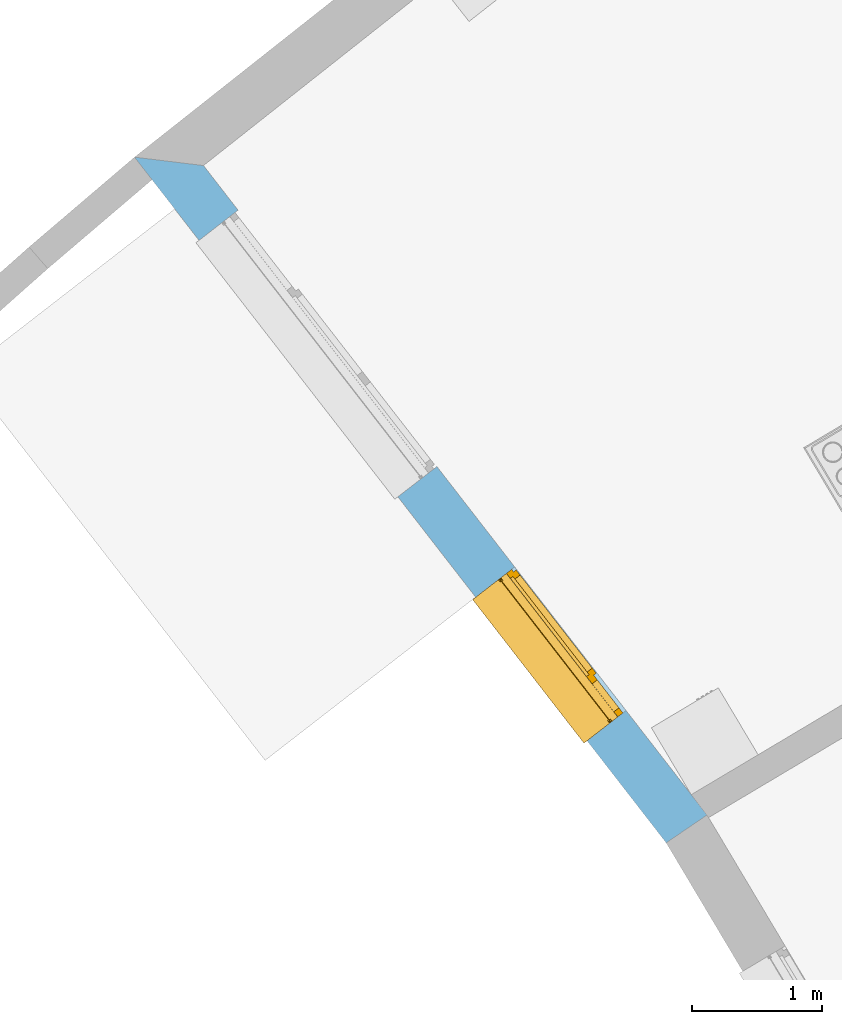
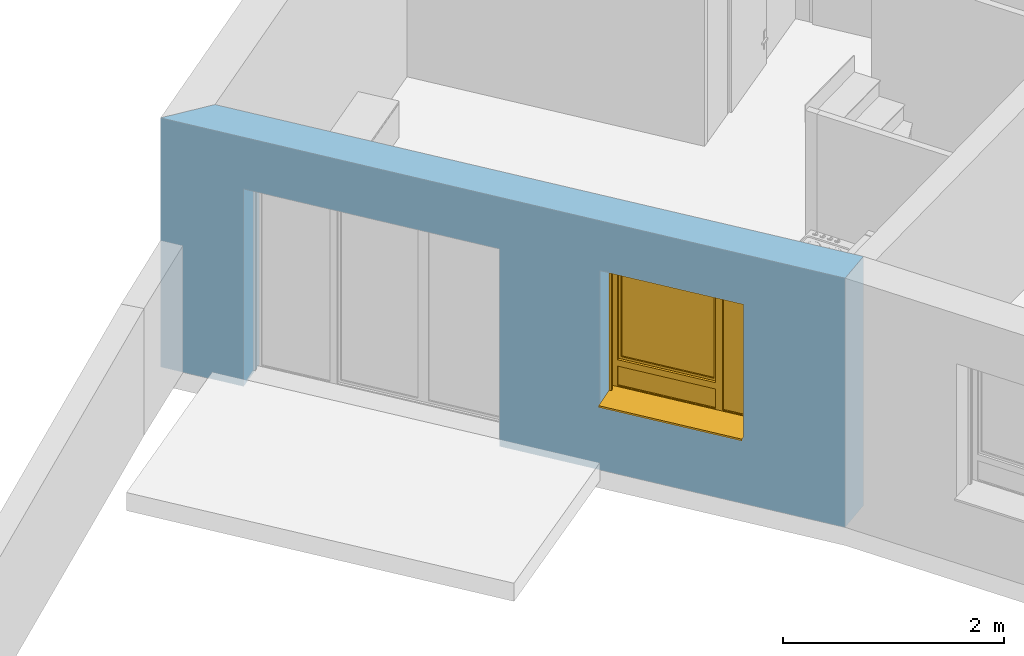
# One storey, part 42 of 195: 1 window, 2 openings, plus 1 element that does not belong to this part.
"""IFC2X3 building model written with IfcOpenShell, lengths in metres."""

import ifcopenshell
import ifcopenshell.guid

model = None  # the IFC model being written
_history = None  # IfcOwnerHistory: only IFC2X3 demands one
_inside = {}  # id of a spatial element -> (the spatial element, [elements in it])
_under = {}  # id of a project, library or spatial element -> (it, [spatial elements below it])
_declared = {}  # id of a project -> (the project, [libraries it declares])
_typed = {}  # id of a type object -> (the type object, [elements of that type])
_made_of = {}  # id of a material, layer set ... -> (it, [elements and type objects made of it])


def new_model(schema):
    """Start an empty IFC model of exactly this schema.

    Asked for "IFC4X3", IfcOpenShell would pick the latest addendum, in which some entities
    have other attributes; the version numbers below select the first issue.
    IFC2X3 requires an IfcOwnerHistory on every rooted entity: one is made here for all.
    """
    global model, _history
    if schema == "IFC4X3":
        model = ifcopenshell.file(schema_version=(4, 3, 0, 0))
    else:
        model = ifcopenshell.file(schema=schema)
    _inside.clear()
    _under.clear()
    _declared.clear()
    _typed.clear()
    _made_of.clear()
    _history = None
    if model.schema == "IFC2X3":
        org = make("IfcOrganization", Name="unknown")
        user = make(
            "IfcPersonAndOrganization",
            ThePerson=make("IfcPerson", FamilyName="unknown"),
            TheOrganization=org,
        )
        app = make(
            "IfcApplication",
            ApplicationDeveloper=org,
            Version="unknown",
            ApplicationFullName="unknown",
            ApplicationIdentifier="unknown",
        )
        _history = make(
            "IfcOwnerHistory",
            OwningUser=user,
            OwningApplication=app,
            ChangeAction="ADDED",
            CreationDate=0,
        )
    return model


def make(cls, **values):
    """One entity of the class cls with the attributes given. An attribute that is None is left unset."""
    return model.create_entity(
        cls, **{name: value for name, value in values.items() if value is not None}
    )


def entity(cls, *values):
    """Any entity or typed value of the class cls, its attributes in the order of the schema. None: left unset."""
    e = model.create_entity(cls)
    for i, value in enumerate(values):
        if value is not None:
            e[i] = value
    return e


def rooted(cls, **values):
    """An entity with a GlobalId (a new one), such as an element, a storey or a relation."""
    return make(cls, GlobalId=ifcopenshell.guid.new(), OwnerHistory=_history, **values)


def si_unit(unit_type, name, prefix=None):
    """IfcSIUnit, for example si_unit("LENGTHUNIT", "METRE", prefix="MILLI")."""
    return make("IfcSIUnit", UnitType=unit_type, Prefix=prefix, Name=name)


def converted_unit(unit_type, name, factor, base, dimensions=None, offset=None):
    """IfcConversionBasedUnit, such as the inch: factor (a typed value) times the base unit."""
    return make(
        "IfcConversionBasedUnit"
        if offset is None
        else "IfcConversionBasedUnitWithOffset",
        ConversionOffset=offset,
        Dimensions=None
        if dimensions is None
        else entity("IfcDimensionalExponents", *dimensions),
        UnitType=unit_type,
        Name=name,
        ConversionFactor=make(
            "IfcMeasureWithUnit", ValueComponent=factor, UnitComponent=base
        ),
    )


def derived_unit(unit_type, elements):
    """IfcDerivedUnit: a product of units, each with its exponent."""
    return make(
        "IfcDerivedUnit",
        Elements=[
            make("IfcDerivedUnitElement", Unit=unit, Exponent=power)
            for unit, power in elements
        ],
        UnitType=unit_type,
    )


def money_unit(currency):
    """IfcMonetaryUnit."""
    return make("IfcMonetaryUnit", Currency=currency)


def assignment(units):
    """IfcUnitAssignment: the units of a project."""
    return None if units is None else make("IfcUnitAssignment", Units=units)


def point(xyz):
    """IfcCartesianPoint."""
    return None if xyz is None else make("IfcCartesianPoint", Coordinates=xyz)


def direction(xyz):
    """IfcDirection."""
    return None if xyz is None else make("IfcDirection", DirectionRatios=xyz)


def frame(location, z_axis=None, x_axis=None):
    """IfcAxis2Placement3D, a coordinate frame: its origin and axes. An axis left out is left unset."""
    return make(
        "IfcAxis2Placement3D",
        Location=point(location),
        Axis=direction(z_axis),
        RefDirection=direction(x_axis),
    )


def origin_with_axes():
    """The frame at (0, 0, 0) with the z axis (0, 0, 1) and the x axis (1, 0, 0) written out."""
    return frame((0.0, 0.0, 0.0), z_axis=(0.0, 0.0, 1.0), x_axis=(1.0, 0.0, 0.0))


def place(relative_to, where):
    """IfcLocalPlacement: puts the frame where relative to a parent placement (None: the world)."""
    return make(
        "IfcLocalPlacement", PlacementRelTo=relative_to, RelativePlacement=where
    )


def context(
    kind, dimensions, precision=None, world=None, true_north=None, identifier=None
):
    """IfcGeometricRepresentationContext, for example the 3D "Model" context."""
    return make(
        "IfcGeometricRepresentationContext",
        ContextIdentifier=identifier,
        ContextType=kind,
        CoordinateSpaceDimension=dimensions,
        Precision=precision,
        WorldCoordinateSystem=world,
        TrueNorth=true_north,
    )


def subcontext(parent, identifier, kind, view, scale=None):
    """IfcGeometricRepresentationSubContext, for example "Body" below "Model"."""
    return make(
        "IfcGeometricRepresentationSubContext",
        ContextIdentifier=identifier,
        ContextType=kind,
        ParentContext=parent,
        TargetScale=scale,
        TargetView=view,
    )


def project(units=None, contexts=None):
    """IfcProject with its units and contexts."""
    return rooted(
        "IfcProject",
        Name="project",
        RepresentationContexts=contexts,
        UnitsInContext=assignment(units),
    )


def spatial(cls, under=None, at=None, **own):
    """A site, building, storey or space (cls), placed at a placement, below another one or the project."""
    s = rooted(cls, ObjectPlacement=at, **own)
    if under is not None:
        _under.setdefault(under.id(), (under, []))[1].append(s)
    return s


def polyline(points):
    """IfcPolyline through the points."""
    return make("IfcPolyline", Points=[point(p) for p in points])


def outline(outer, holes=None, kind="AREA"):
    """IfcArbitraryClosedProfileDef: a profile drawn as a closed curve; with holes, ...WithVoids."""
    if holes is None:
        return make("IfcArbitraryClosedProfileDef", ProfileType=kind, OuterCurve=outer)
    return make(
        "IfcArbitraryProfileDefWithVoids",
        ProfileType=kind,
        OuterCurve=outer,
        InnerCurves=holes,
    )


def extrude(swept, where, along, depth):
    """IfcExtrudedAreaSolid: the profile swept, set in the frame where, extruded along a direction by depth."""
    return make(
        "IfcExtrudedAreaSolid",
        SweptArea=swept,
        Position=where,
        ExtrudedDirection=direction(along),
        Depth=depth,
    )


def faces_of(points, faces, orient=None, outer=None):
    """IfcFace entities. A face is a list of loops; a loop is a list of indices into points, from 0.

    orient and outer hold one flag for each loop. By default every Orientation is true, the
    first loop of a face is its IfcFaceOuterBound and the others are IfcFaceBound.
    """
    made = []
    for i, loops in enumerate(faces):
        bounds = []
        for j, loop in enumerate(loops):
            is_outer = j == 0 if outer is None else outer[i][j]
            bounds.append(
                make(
                    "IfcFaceOuterBound" if is_outer else "IfcFaceBound",
                    Bound=make("IfcPolyLoop", Polygon=[points[k] for k in loop]),
                    Orientation=True if orient is None else orient[i][j],
                )
            )
        made.append(make("IfcFace", Bounds=bounds))
    return made


def open_shell(faces, orient=None, outer=None):
    """The faces of one IfcOpenShell. surface_model builds it on its shared points."""
    return ("IfcOpenShell", faces, orient, outer)


def faceted_brep(points, faces, orient=None, outer=None, voids=None):
    """IfcFacetedBrep: a solid bounded by flat faces; with voids (closed shells), ...WithVoids."""
    shared = [point(p) for p in points]
    hull = make("IfcClosedShell", CfsFaces=faces_of(shared, faces, orient, outer))
    if voids is None:
        return make("IfcFacetedBrep", Outer=hull)
    return make(
        "IfcFacetedBrepWithVoids",
        Outer=hull,
        Voids=[
            make(cls, CfsFaces=faces_of(shared, fs, o, b)) for cls, fs, o, b in voids
        ],
    )


def surface_model(cls, points, shells):
    """IfcFaceBasedSurfaceModel or IfcShellBasedSurfaceModel (cls): surfaces that need not close."""
    shared = [point(p) for p in points]
    made = [make(c, CfsFaces=faces_of(shared, fs, o, b)) for c, fs, o, b in shells]
    if cls == "IfcFaceBasedSurfaceModel":
        return make(cls, FbsmFaces=made)
    return make(cls, SbsmBoundary=made)


def shape(context_of_items, identifier, shape_type, items):
    """IfcShapeRepresentation: the items that make up one representation, for example the "Body"."""
    return make(
        "IfcShapeRepresentation",
        ContextOfItems=context_of_items,
        RepresentationIdentifier=identifier,
        RepresentationType=shape_type,
        Items=items,
    )


def source(mapping_origin, context_of_items, identifier, shape_type, items):
    """IfcRepresentationMap: a shape defined once, which mapped items show again and again."""
    return make(
        "IfcRepresentationMap",
        MappingOrigin=mapping_origin,
        MappedRepresentation=shape(context_of_items, identifier, shape_type, items),
    )


def transform(
    local_origin,
    x_axis=None,
    y_axis=None,
    z_axis=None,
    scale=None,
    scale2=None,
    scale3=None,
    uniform=True,
):
    """IfcCartesianTransformationOperator3D, or its non-uniform kind. x_axis, y_axis, z_axis: its Axis1, 2, 3."""
    if uniform:
        return make(
            "IfcCartesianTransformationOperator3D",
            Axis1=direction(x_axis),
            Axis2=direction(y_axis),
            LocalOrigin=point(local_origin),
            Scale=scale,
            Axis3=direction(z_axis),
        )
    return make(
        "IfcCartesianTransformationOperator3DnonUniform",
        Axis1=direction(x_axis),
        Axis2=direction(y_axis),
        LocalOrigin=point(local_origin),
        Scale=scale,
        Axis3=direction(z_axis),
        Scale2=scale2,
        Scale3=scale3,
    )


def mapped(mapping_source, mapping_target):
    """IfcMappedItem: shows the shape of a source again, moved by a transform."""
    return make(
        "IfcMappedItem", MappingSource=mapping_source, MappingTarget=mapping_target
    )


def material(Name=None, Category=None):
    """IfcMaterial."""
    return make("IfcMaterial", Name=Name, Category=Category)


def layer(
    of_material, thickness, ventilated=None, Name=None, Category=None, Priority=None
):
    """IfcMaterialLayer: one layer of a wall or slab, of a material (None: an air gap)."""
    return make(
        "IfcMaterialLayer",
        Material=of_material,
        LayerThickness=thickness,
        IsVentilated=ventilated,
        Name=Name,
        Category=Category,
        Priority=Priority,
    )


def layer_set(layers, Name=None):
    """IfcMaterialLayerSet."""
    return make("IfcMaterialLayerSet", MaterialLayers=layers, LayerSetName=Name)


def layer_usage(for_layer_set, set_direction, sense, offset, extent=None):
    """IfcMaterialLayerSetUsage: how a layer set lies in its element."""
    return make(
        "IfcMaterialLayerSetUsage",
        ForLayerSet=for_layer_set,
        LayerSetDirection=set_direction,
        DirectionSense=sense,
        OffsetFromReferenceLine=offset,
        ReferenceExtent=extent,
    )


def made_of(thing, what):
    """Note that an element or type object is made of a material, layer set ...; save() writes the relation."""
    if what is not None:
        _made_of.setdefault(what.id(), (what, []))[1].append(thing)
    return thing


def type_object(cls, material=None, **own):
    """A type object (cls), such as IfcWallType, which elements share."""
    return made_of(rooted(cls, **own), material)


def element(
    cls,
    number,
    at=None,
    inside=None,
    cuts=None,
    type_object=None,
    material=None,
    context=None,
    identifier="Body",
    shape_type=None,
    held_by="IfcProductDefinitionShape",
    body=None,
    shapes=None,
    **own,
):
    """One element of the class cls, such as IfcWall. Its Tag is "e" and its number.

    at: its placement. inside: the storey or other place that contains it. cuts: it is an
    opening in that element (IfcRelVoidsElement). A single representation is given by context,
    identifier, shape_type and body (its items); several are given by shapes. held_by: the class
    of the entity that holds the representations. save() writes the other relations.
    """
    e = rooted(cls, Tag="e%d" % number, ObjectPlacement=at, **own)
    if body is not None:
        shapes = [shape(context, identifier, shape_type, body)]
    if shapes is not None:
        e.Representation = make(held_by, Representations=shapes)
    if inside is not None:
        _inside.setdefault(inside.id(), (inside, []))[1].append(e)
    if cuts is not None:
        rooted(
            "IfcRelVoidsElement", RelatingBuildingElement=cuts, RelatedOpeningElement=e
        )
    if type_object is not None:
        _typed.setdefault(type_object.id(), (type_object, []))[1].append(e)
    return made_of(e, material)


def fill(opening, filler):
    """IfcRelFillsElement: the door or window that sits in an opening."""
    return rooted(
        "IfcRelFillsElement",
        RelatingOpeningElement=opening,
        RelatedBuildingElement=filler,
    )


def aggregate(whole, parts):
    """IfcRelAggregates: a whole, such as a stair, and the parts it consists of."""
    return rooted("IfcRelAggregates", RelatingObject=whole, RelatedObjects=parts)


def save(model, path):
    """Write the relations noted so far, then the file.

    IfcRelAggregates (storeys below a building ...), IfcRelContainedInSpatialStructure (elements
    in a storey), IfcRelDefinesByType, IfcRelAssociatesMaterial and IfcRelDeclares: one each for
    every whole, place, type object, material and project.
    """
    for whole, parts in _under.values():
        aggregate(whole, parts)
    for where, things in _inside.values():
        rooted(
            "IfcRelContainedInSpatialStructure",
            RelatedElements=things,
            RelatingStructure=where,
        )
    for kind, things in _typed.values():
        rooted("IfcRelDefinesByType", RelatedObjects=things, RelatingType=kind)
    for what, things in _made_of.values():
        rooted("IfcRelAssociatesMaterial", RelatedObjects=things, RelatingMaterial=what)
    for by, libraries in _declared.values():
        rooted("IfcRelDeclares", RelatingContext=by, RelatedDefinitions=libraries)
    model.write(path)


model = new_model("IFC2X3")

# Units and contexts
model_context = context("Model", 3, precision=1e-05, world=origin_with_axes(), true_north=direction((0.0, 1.0)))
body_context = subcontext(model_context, "Body", "Model", "MODEL_VIEW")
ifc_project = project(units=[si_unit("LENGTHUNIT", "METRE"), si_unit("AREAUNIT", "SQUARE_METRE"), si_unit("VOLUMEUNIT", "CUBIC_METRE"), converted_unit("PLANEANGLEUNIT", "DEGREE", entity("IfcPlaneAngleMeasure", 0.0174532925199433), si_unit("PLANEANGLEUNIT", "RADIAN"), dimensions=[0, 0, 0, 0, 0, 0, 0]), money_unit("CHF"), converted_unit("TIMEUNIT", "Year", entity("IfcTimeMeasure", 31557600.0), si_unit("TIMEUNIT", "SECOND"), dimensions=[0, 0, 1, 0, 0, 0, 0]), si_unit("MASSUNIT", "GRAM", prefix="KILO"), si_unit("THERMODYNAMICTEMPERATUREUNIT", "DEGREE_CELSIUS"), si_unit("LUMINOUSINTENSITYUNIT", "LUMEN"), si_unit("ENERGYUNIT", "JOULE", prefix="MEGA"), derived_unit("THERMALCONDUCTANCEUNIT", [(si_unit("POWERUNIT", "WATT"), 1), (si_unit("LENGTHUNIT", "METRE"), -1), (si_unit("THERMODYNAMICTEMPERATUREUNIT", "KELVIN"), -1)]), derived_unit("SPECIFICHEATCAPACITYUNIT", [(si_unit("ENERGYUNIT", "JOULE"), 1), (si_unit("MASSUNIT", "GRAM", prefix="KILO"), -1), (si_unit("THERMODYNAMICTEMPERATUREUNIT", "KELVIN"), -1)]), derived_unit("MASSDENSITYUNIT", [(si_unit("MASSUNIT", "GRAM", prefix="KILO"), 1), (si_unit("VOLUMEUNIT", "CUBIC_METRE"), -1)])], contexts=[model_context])

# Site, building, storey
site_placement = place(None, origin_with_axes())
site = spatial("IfcSite", under=ifc_project, at=site_placement, Name="Site", CompositionType="ELEMENT")
building_placement = place(site_placement, origin_with_axes())
building = spatial("IfcBuilding", under=site, at=building_placement, Name="Bâtiment", CompositionType="ELEMENT")
storey_placement = place(building_placement, origin_with_axes())
storey = spatial("IfcBuildingStorey", under=building, at=storey_placement, Name="rdc", CompositionType="ELEMENT", Elevation=0.0)

# Wall, openings, window
ifc_material_1 = material(Name="Parpaing 312445824")
ifc_layer_1 = layer(ifc_material_1, 0.22, ventilated="UNKNOWN")
ifc_material_2 = material(Name="Isolant styromousse 301821074")
ifc_layer_2 = layer(ifc_material_2, 0.16, ventilated="UNKNOWN")
ifc_layer_set = layer_set([ifc_layer_1, ifc_layer_2], Name="isol int 22+16 0836643197")
ifc_layer_usage = layer_usage(ifc_layer_set, "AXIS2", "NEGATIVE", 0.0)
wall_type = type_object("IfcWallType", Name="isol int 22+16 0836643197 380", PredefinedType="NOTDEFINED")
wall_placement = place(storey_placement, frame((9538.446702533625, -1047.206277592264, 57.7), z_axis=(0.0, 0.0, 1.0), x_axis=(-0.6127569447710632, 0.7902714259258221, 0.0)))
wall = element("IfcWallStandardCase", 1, at=wall_placement, inside=storey, type_object=wall_type, material=ifc_layer_usage, Name="Mur-112", context=body_context, shape_type="SweptSolid", body=[
    extrude(outline(polyline([(-0.02325286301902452, -0.3799999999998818), (6.307653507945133, -0.3799999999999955), (6.684138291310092, 0.0), (0.0, 0.0), (-0.02325286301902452, -0.3799999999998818)])), origin_with_axes(), (0.0, 0.0, 1.0), 2.75),
])
opening_1_placement = place(wall_placement, frame((4.622913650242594, 0.0, 0.0), z_axis=(0.0, 0.0, 1.0), x_axis=(1.0, 0.0, 0.0)))
element("IfcOpeningElement", 2, at=opening_1_placement, cuts=wall, Name="Fen-045", context=body_context, shape_type="Brep", body=[
    faceted_brep([(1.249999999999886, -0.4800000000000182, 2.18), (-1.250000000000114, -0.4800000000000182, 2.18), (-1.25, -3.617755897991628, 2.18), (1.25, -3.617755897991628, 2.18), (1.249999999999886, -0.4800000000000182, 2.380000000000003), (-1.250000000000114, -0.4800000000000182, 2.380000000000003), (-1.250000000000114, -0.2999999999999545, 2.18), (-1.250000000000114, -0.2999999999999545, 0.0), (-1.25, -3.617755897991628, 0.0), (1.25, -3.617755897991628, 0.0), (1.25, -0.2999999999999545, 2.18), (1.25, -0.2999999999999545, 0.0), (1.25, -0.2200000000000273, 2.18), (1.25, -0.2200000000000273, 2.380000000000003), (-1.25, -0.2200000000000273, 2.380000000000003), (-1.25, -0.2200000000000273, 2.18), (-1.250000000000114, 3.237755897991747, 2.18), (-1.250000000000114, 3.237755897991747, 0.0), (1.249999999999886, 3.23775589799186, 0.0), (1.249999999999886, 3.23775589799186, 2.18)], [[[0, 1, 2, 3]], [[1, 0, 4, 5]], [[1, 6, 7, 8, 2]], [[2, 8, 9, 3]], [[10, 0, 3, 9, 11]], [[0, 10, 12, 13, 4]], [[4, 13, 14, 5]], [[6, 1, 5, 14, 15]], [[6, 15, 16, 17, 7]], [[7, 11, 9, 8]], [[12, 10, 11, 18, 19]], [[12, 15, 14, 13]], [[15, 12, 19, 16]], [[19, 18, 17, 16]], [[11, 7, 17, 18]]]),
])
opening_2_placement = place(wall_placement, frame((1.694722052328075, 0.0, 0.7000000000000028), z_axis=(0.0, 0.0, 1.0), x_axis=(1.0, 0.0, 0.0)))
opening_2 = element("IfcOpeningElement", 3, at=opening_2_placement, cuts=wall, Name="Fen-045", context=body_context, shape_type="Brep", body=[
    faceted_brep([(0.7000000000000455, -0.4800000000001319, 1.5), (-0.6999999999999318, -0.4800000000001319, 1.5), (-0.6999999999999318, -3.617755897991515, 1.5), (0.7000000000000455, -3.617755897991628, 1.5), (0.7000000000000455, -0.4800000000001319, 1.700000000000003), (-0.6999999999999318, -0.4800000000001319, 1.700000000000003), (-0.6999999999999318, -0.3000000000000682, 1.5), (-0.6999999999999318, -0.3000000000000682, 0.0), (-0.6999999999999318, -3.617755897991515, 0.0), (0.7000000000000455, -3.617755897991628, 0.0), (0.7000000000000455, -0.3000000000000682, 1.5), (0.7000000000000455, -0.3000000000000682, 0.0), (0.7000000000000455, -0.2200000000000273, 1.5), (0.7000000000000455, -0.2200000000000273, 1.700000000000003), (-0.6999999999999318, -0.2200000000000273, 1.700000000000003), (-0.6999999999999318, -0.2200000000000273, 1.5), (-0.6999999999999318, 3.237755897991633, 1.5), (-0.6999999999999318, 3.237755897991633, 0.0), (0.7000000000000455, 3.237755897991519, 0.0), (0.7000000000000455, 3.237755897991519, 1.5)], [[[0, 1, 2, 3]], [[1, 0, 4, 5]], [[1, 6, 7, 8, 2]], [[2, 8, 9, 3]], [[10, 0, 3, 9, 11]], [[0, 10, 12, 13, 4]], [[14, 5, 4, 13]], [[6, 1, 5, 14, 15]], [[6, 15, 16, 17, 7]], [[7, 11, 9, 8]], [[12, 10, 11, 18, 19]], [[12, 15, 14, 13]], [[15, 12, 19, 16]], [[19, 18, 17, 16]], [[11, 7, 17, 18]]]),
])
window_style = type_object("IfcWindowStyle", Name="Fenêtre variable 27", ConstructionType="NOTDEFINED", OperationType="TRIPLE_PANEL_RIGHT", ParameterTakesPrecedence=False, Sizeable=False)
shared_shape = source(origin_with_axes(), body_context, "Body", "SurfaceModel", [
    surface_model("IfcShellBasedSurfaceModel", [(-0.7, -0.05100000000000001, 0.05), (-0.7, -0.05100000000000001, 0.04), (0.7, -0.05100000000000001, 0.04000000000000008), (0.7, -0.05100000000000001, 0.05000000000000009), (-0.7, -0.3799999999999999, 0.02899999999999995), (0.7, -0.3799999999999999, 0.02900000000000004), (-0.7, -0.3799999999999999, 0.008999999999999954), (0.7, -0.3799999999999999, 0.00900000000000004), (-0.7, -0.3699999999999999, 0.01899999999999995), (0.7, -0.3699999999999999, 0.01900000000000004)], [open_shell([[[0, 1, 2, 3]], [[1, 4, 5, 2]], [[4, 6, 7, 5]], [[6, 8, 9, 7]]])]),
    faceted_brep([(-0.7, -0.13, 1.7), (-0.697, -0.13, 1.7), (-0.697, 0.13, 1.7), (-0.7, 0.13, 1.7), (-0.7, -0.13, 1.5), (-0.697, -0.13, 1.5), (-0.697, 0.13, 1.5), (-0.7, 0.13, 1.5)], [[[0, 1, 2, 3]], [[4, 5, 1, 0]], [[1, 5, 6, 2]], [[3, 2, 6, 7]], [[0, 3, 7, 4]], [[7, 6, 5, 4]]]),
    faceted_brep([(0.6970000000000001, -0.1299999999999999, 1.7), (0.7000000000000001, -0.1299999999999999, 1.7), (0.7000000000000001, 0.1300000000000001, 1.7), (0.6970000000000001, 0.1300000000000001, 1.7), (0.6970000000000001, -0.1299999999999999, 1.5), (0.7000000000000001, -0.1299999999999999, 1.5), (0.7000000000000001, 0.1300000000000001, 1.5), (0.6970000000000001, 0.1300000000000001, 1.5)], [[[0, 1, 2, 3]], [[4, 5, 1, 0]], [[1, 5, 6, 2]], [[3, 2, 6, 7]], [[0, 3, 7, 4]], [[7, 6, 5, 4]]]),
    faceted_brep([(-0.697, -0.13, 1.5), (0.697, -0.1299999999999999, 1.5), (0.697, -0.1299999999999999, 1.7), (-0.697, -0.13, 1.7), (-0.697, -0.127, 1.5), (0.697, -0.1269999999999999, 1.5), (0.697, -0.1269999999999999, 1.697), (0.697, 0.1270000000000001, 1.697), (0.697, 0.1270000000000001, 1.503), (0.697, -0.1079999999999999, 1.503), (0.697, -0.1079999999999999, 1.5), (0.697, 0.1300000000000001, 1.5), (0.697, 0.1300000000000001, 1.7), (-0.697, 0.13, 1.7), (-0.697, 0.13, 1.5), (-0.697, -0.108, 1.5), (-0.697, -0.108, 1.503), (-0.697, 0.127, 1.503), (-0.697, 0.127, 1.697), (-0.697, -0.127, 1.697)], [[[0, 1, 2, 3]], [[4, 5, 1, 0]], [[1, 5, 6, 7, 8, 9, 10, 11, 12, 2]], [[3, 2, 12, 13]], [[0, 3, 13, 14, 15, 16, 17, 18, 19, 4]], [[19, 6, 5, 4]], [[18, 7, 6, 19]], [[17, 8, 7, 18]], [[16, 9, 8, 17]], [[15, 10, 9, 16]], [[14, 11, 10, 15]], [[13, 12, 11, 14]]]),
    faceted_brep([(-0.694, -0.08075423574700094, 1.585760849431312), (-0.694, -0.08200000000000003, 1.6), (-0.694, -0.0807542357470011, 1.614239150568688), (-0.694, -0.07705479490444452, 1.628045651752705), (-0.694, -0.07101408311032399, 1.641), (-0.694, -0.06281564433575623, 1.652708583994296), (-0.694, -0.05270858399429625, 1.662815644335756), (-0.694, -0.04100000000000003, 1.671014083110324), (-0.694, -0.02804565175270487, 1.677054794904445), (-0.694, -0.01423915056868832, 1.680754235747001), (-0.694, 0.0, 1.682), (-0.694, 0.01423915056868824, 1.680754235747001), (-0.694, 0.02804565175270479, 1.677054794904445), (-0.694, 0.04099999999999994, 1.671014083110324), (-0.694, 0.05270858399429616, 1.662815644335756), (-0.694, 0.06281564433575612, 1.652708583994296), (-0.694, 0.07101408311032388, 1.641), (-0.694, 0.0770547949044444, 1.628045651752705), (-0.694, 0.08075423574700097, 1.614239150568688), (-0.694, 0.0819999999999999, 1.6), (-0.694, 0.08075423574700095, 1.585760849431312), (-0.694, 0.07705479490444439, 1.571954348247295), (-0.694, 0.07101408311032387, 1.559), (-0.694, 0.06281564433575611, 1.547291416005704), (-0.694, 0.05270858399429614, 1.537184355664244), (-0.694, 0.04099999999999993, 1.528985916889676), (-0.694, 0.02804565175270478, 1.522945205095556), (-0.694, 0.01423915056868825, 1.519245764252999), (-0.694, 0.0, 1.518), (-0.694, -0.01423915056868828, 1.519245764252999), (-0.694, -0.02804565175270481, 1.522945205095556), (-0.694, -0.04099999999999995, 1.528985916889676), (-0.694, -0.05270858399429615, 1.537184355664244), (-0.694, -0.06281564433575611, 1.547291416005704), (-0.694, -0.07101408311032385, 1.559), (-0.694, -0.07705479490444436, 1.571954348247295), (0.694, -0.08075423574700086, 1.585760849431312), (0.694, -0.08199999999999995, 1.6), (0.694, -0.08075423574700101, 1.614239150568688), (0.694, -0.07705479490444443, 1.628045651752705), (0.694, -0.07101408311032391, 1.641), (0.694, -0.06281564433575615, 1.652708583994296), (0.694, -0.05270858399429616, 1.662815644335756), (0.694, -0.04099999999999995, 1.671014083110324), (0.694, -0.02804565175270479, 1.677054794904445), (0.694, -0.01423915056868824, 1.680754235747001), (0.694, 0.0, 1.682), (0.694, 0.01423915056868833, 1.680754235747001), (0.694, 0.02804565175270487, 1.677054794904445), (0.694, 0.04100000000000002, 1.671014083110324), (0.694, 0.05270858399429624, 1.662815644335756), (0.694, 0.0628156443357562, 1.652708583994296), (0.694, 0.07101408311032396, 1.641), (0.694, 0.07705479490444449, 1.628045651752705), (0.694, 0.08075423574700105, 1.614239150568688), (0.694, 0.08199999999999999, 1.6), (0.694, 0.08075423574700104, 1.585760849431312), (0.694, 0.07705479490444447, 1.571954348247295), (0.694, 0.07101408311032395, 1.559), (0.694, 0.06281564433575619, 1.547291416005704), (0.694, 0.05270858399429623, 1.537184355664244), (0.694, 0.04100000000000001, 1.528985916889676), (0.694, 0.02804565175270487, 1.522945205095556), (0.694, 0.01423915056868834, 1.519245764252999), (0.694, 0.0, 1.518), (0.694, -0.0142391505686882, 1.519245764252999), (0.694, -0.02804565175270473, 1.522945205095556), (0.694, -0.04099999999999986, 1.528985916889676), (0.694, -0.05270858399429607, 1.537184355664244), (0.694, -0.06281564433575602, 1.547291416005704), (0.694, -0.07101408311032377, 1.559), (0.694, -0.07705479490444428, 1.571954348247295)], [[[0, 1, 2, 3, 4, 5, 6, 7, 8, 9, 10, 11, 12, 13, 14, 15, 16, 17, 18, 19, 20, 21, 22, 23, 24, 25, 26, 27, 28, 29, 30, 31, 32, 33, 34, 35]], [[0, 36, 37, 1]], [[1, 37, 38, 2]], [[2, 38, 39, 3]], [[3, 39, 40, 4]], [[4, 40, 41, 5]], [[5, 41, 42, 6]], [[6, 42, 43, 7]], [[7, 43, 44, 8]], [[8, 44, 45, 9]], [[9, 45, 46, 10]], [[10, 46, 47, 11]], [[11, 47, 48, 12]], [[12, 48, 49, 13]], [[13, 49, 50, 14]], [[14, 50, 51, 15]], [[15, 51, 52, 16]], [[16, 52, 53, 17]], [[17, 53, 54, 18]], [[18, 54, 55, 19]], [[19, 55, 56, 20]], [[20, 56, 57, 21]], [[21, 57, 58, 22]], [[22, 58, 59, 23]], [[23, 59, 60, 24]], [[24, 60, 61, 25]], [[25, 61, 62, 26]], [[26, 62, 63, 27]], [[27, 63, 64, 28]], [[28, 64, 65, 29]], [[29, 65, 66, 30]], [[30, 66, 67, 31]], [[31, 67, 68, 32]], [[32, 68, 69, 33]], [[33, 69, 70, 34]], [[34, 70, 71, 35]], [[35, 71, 36, 0]], [[36, 71, 70, 69, 68, 67, 66, 65, 64, 63, 62, 61, 60, 59, 58, 57, 56, 55, 54, 53, 52, 51, 50, 49, 48, 47, 46, 45, 44, 43, 42, 41, 40, 39, 38, 37]]]),
    faceted_brep([(0.7, -0.105, 0.03), (0.7, -0.1049999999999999, 1.5), (0.7, -0.1299999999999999, 1.5), (0.7, -0.13, 0.03), (0.6749999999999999, -0.105, 0.03), (0.6749999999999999, -0.1049999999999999, 1.5), (0.6749999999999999, -0.1079999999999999, 1.5), (0.697, -0.1079999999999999, 1.5), (0.697, -0.1269999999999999, 1.5), (0.6749999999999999, -0.1269999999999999, 1.5), (0.6749999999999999, -0.1299999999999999, 1.5), (0.6749999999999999, -0.13, 0.03), (0.6749999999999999, -0.127, 0.03), (0.697, -0.127, 0.03), (0.697, -0.108, 0.03), (0.6749999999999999, -0.108, 0.03)], [[[0, 1, 2, 3]], [[4, 5, 1, 0]], [[1, 5, 6, 7, 8, 9, 10, 2]], [[3, 2, 10, 11]], [[0, 3, 11, 12, 13, 14, 15, 4]], [[15, 6, 5, 4]], [[14, 7, 6, 15]], [[13, 8, 7, 14]], [[12, 9, 8, 13]], [[11, 10, 9, 12]]]),
    faceted_brep([(-0.7, -0.105, 0.03), (-0.7, -0.13, 0.03), (-0.7, -0.1299999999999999, 1.5), (-0.7, -0.1049999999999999, 1.5), (-0.6749999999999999, -0.105, 0.03), (-0.6749999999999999, -0.108, 0.03), (-0.697, -0.108, 0.03), (-0.697, -0.127, 0.03), (-0.6749999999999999, -0.127, 0.03), (-0.6749999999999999, -0.13, 0.03), (-0.6749999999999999, -0.1299999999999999, 1.5), (-0.6749999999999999, -0.1269999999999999, 1.5), (-0.697, -0.1269999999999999, 1.5), (-0.697, -0.1079999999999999, 1.5), (-0.6749999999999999, -0.1079999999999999, 1.5), (-0.6749999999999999, -0.1049999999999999, 1.5)], [[[0, 1, 2, 3]], [[0, 4, 5, 6, 7, 8, 9, 1]], [[1, 9, 10, 2]], [[3, 2, 10, 11, 12, 13, 14, 15]], [[4, 0, 3, 15]], [[5, 4, 15, 14]], [[6, 5, 14, 13]], [[7, 6, 13, 12]], [[8, 7, 12, 11]], [[9, 8, 11, 10]]]),
    surface_model("IfcShellBasedSurfaceModel", [(-0.697, -0.115, 1.6), (0.697, -0.1149999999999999, 1.6), (0.697, -0.1199999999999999, 1.6), (-0.697, -0.12, 1.6), (-0.697, -0.115, 1.6), (-0.697, -0.12, 1.6), (0.697, -0.12, 1.6), (0.697, -0.1149999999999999, 1.6)], [open_shell([[[0, 1, 2, 3]], [[4, 5, 6, 7]]])]),
    faceted_brep([(-0.697, -0.115, 1.6), (0.697, -0.1149999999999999, 1.6), (0.697, -0.1166666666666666, 1.583333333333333), (-0.697, -0.1166666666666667, 1.583333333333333), (-0.697, -0.12, 1.6), (0.697, -0.1199999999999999, 1.6), (0.697, -0.1216666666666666, 1.583333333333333), (0.697, -0.1216666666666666, 1.566666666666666), (0.697, -0.1199999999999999, 1.55), (0.697, -0.1149999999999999, 1.55), (0.697, -0.1166666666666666, 1.566666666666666), (-0.697, -0.1166666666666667, 1.566666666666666), (-0.697, -0.115, 1.55), (-0.697, -0.12, 1.55), (-0.697, -0.1216666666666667, 1.566666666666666), (-0.697, -0.1216666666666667, 1.583333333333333)], [[[0, 1, 2, 3]], [[4, 5, 1, 0]], [[1, 5, 6, 7, 8, 9, 10, 2]], [[3, 2, 10, 11]], [[0, 3, 11, 12, 13, 14, 15, 4]], [[15, 6, 5, 4]], [[14, 7, 6, 15]], [[13, 8, 7, 14]], [[12, 9, 8, 13]], [[11, 10, 9, 12]]]),
    faceted_brep([(-0.697, -0.115, 1.55), (0.697, -0.1149999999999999, 1.55), (0.697, -0.1166666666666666, 1.533333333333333), (-0.697, -0.1166666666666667, 1.533333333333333), (-0.697, -0.12, 1.55), (0.697, -0.1199999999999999, 1.55), (0.697, -0.1216666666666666, 1.533333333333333), (0.697, -0.1216666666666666, 1.516666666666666), (0.697, -0.1199999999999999, 1.5), (0.697, -0.1149999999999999, 1.5), (0.697, -0.1166666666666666, 1.516666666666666), (-0.697, -0.1166666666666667, 1.516666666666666), (-0.697, -0.115, 1.5), (-0.697, -0.12, 1.5), (-0.697, -0.1216666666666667, 1.516666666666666), (-0.697, -0.1216666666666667, 1.533333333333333)], [[[0, 1, 2, 3]], [[4, 5, 1, 0]], [[1, 5, 6, 7, 8, 9, 10, 2]], [[3, 2, 10, 11]], [[0, 3, 11, 12, 13, 14, 15, 4]], [[15, 6, 5, 4]], [[14, 7, 6, 15]], [[13, 8, 7, 14]], [[12, 9, 8, 13]], [[11, 10, 9, 12]]]),
    faceted_brep([(-0.6749999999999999, 0.0, 1.45), (-0.7, 0.0, 1.45), (-0.7, -0.05000000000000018, 1.45), (-0.6499999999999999, -0.05000000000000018, 1.45), (-0.6499999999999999, -0.02500000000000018, 1.45), (-0.6749999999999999, -0.02500000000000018, 1.45), (-0.6749999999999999, 0.0, 0.3099999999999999), (-0.6499999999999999, 0.0, 0.3099999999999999), (-0.6499999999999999, 0.0, 0.265), (-0.6499999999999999, 0.0, 0.05000000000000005), (-0.7, 0.0, 0.05000000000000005), (-0.7, -0.05000000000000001, 0.05000000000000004), (-0.6499999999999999, -0.05000000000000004, 0.335), (-0.6499999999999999, -0.05000000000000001, 0.05000000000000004), (-0.6499999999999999, -0.05000000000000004, 0.265), (-0.6499999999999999, -0.02500000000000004, 0.335), (-0.6499999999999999, -0.02500000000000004, 0.3099999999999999), (-0.6749999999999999, -0.02500000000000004, 0.3099999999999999)], [[[0, 1, 2, 3, 4, 5]], [[6, 7, 8, 9, 10, 1, 0]], [[1, 10, 11, 2]], [[12, 3, 2, 11, 13, 14]], [[4, 3, 12, 15]], [[15, 16, 17, 5, 4]], [[5, 17, 6, 0]], [[6, 17, 16, 7]], [[16, 15, 12, 14, 8, 7]], [[9, 8, 14, 13]], [[10, 9, 13, 11]]]),
    faceted_brep([(0.3068894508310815, -0.02500000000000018, 1.45), (0.3068894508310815, -0.05000000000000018, 1.45), (0.3768894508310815, -0.05000000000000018, 1.45), (0.3768894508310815, 0.0, 1.45), (0.3318894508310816, 0.0, 1.45), (0.3318894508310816, -0.02500000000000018, 1.45), (0.3068894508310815, -0.02500000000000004, 0.335), (0.3068894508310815, -0.05000000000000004, 0.335), (0.3068894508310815, -0.05000000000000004, 0.265), (0.3068894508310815, -0.05000000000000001, 0.05000000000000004), (0.3768894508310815, -0.05000000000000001, 0.05000000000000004), (0.3768894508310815, 0.0, 0.05000000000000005), (0.3318894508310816, 0.0, 0.3099999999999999), (0.3068894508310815, 0.0, 0.05000000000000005), (0.3068894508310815, 0.0, 0.265), (0.3068894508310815, 0.0, 0.3099999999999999), (0.3318894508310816, -0.02500000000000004, 0.3099999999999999), (0.3068894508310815, -0.02500000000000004, 0.3099999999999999)], [[[0, 1, 2, 3, 4, 5]], [[6, 7, 1, 0]], [[8, 9, 10, 2, 1, 7]], [[11, 3, 2, 10]], [[12, 4, 3, 11, 13, 14, 15]], [[12, 16, 5, 4]], [[5, 16, 17, 6, 0]], [[17, 15, 14, 8, 7, 6]], [[14, 13, 9, 8]], [[13, 11, 10, 9]], [[15, 17, 16, 12]]]),
    faceted_brep([(-0.6499999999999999, -0.02500000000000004, 0.335), (-0.6499999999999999, -0.05000000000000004, 0.335), (0.3068894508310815, -0.05000000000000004, 0.335), (0.3068894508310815, -0.02500000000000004, 0.335), (-0.6499999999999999, -0.02500000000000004, 0.3099999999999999), (-0.6499999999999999, 0.0, 0.3099999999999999), (-0.6499999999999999, 0.0, 0.265), (-0.6499999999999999, -0.05000000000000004, 0.265), (0.3068894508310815, -0.05000000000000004, 0.265), (0.3068894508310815, -0.02500000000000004, 0.3099999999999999), (0.3068894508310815, 0.0, 0.265), (0.3068894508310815, 0.0, 0.3099999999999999)], [[[0, 1, 2, 3]], [[4, 5, 6, 7, 1, 0]], [[2, 1, 7, 8]], [[9, 3, 2, 8, 10, 11]], [[9, 4, 0, 3]], [[5, 4, 9, 11]], [[11, 10, 6, 5]], [[6, 10, 8, 7]]]),
    faceted_brep([(-0.6749999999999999, 0.0, 1.45), (-0.7, 0.0, 1.45), (-0.7, 0.0, 1.5), (0.7, 0.0, 1.5), (0.7, 0.0, 1.45), (0.6499999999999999, 0.0, 1.45), (0.3768894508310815, 0.0, 1.45), (0.3318894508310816, 0.0, 1.45), (0.3318894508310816, 0.0, 1.475), (-0.6749999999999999, 0.0, 1.475), (-0.6749999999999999, -0.02500000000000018, 1.45), (-0.6499999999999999, -0.02500000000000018, 1.45), (-0.6499999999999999, -0.05000000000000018, 1.45), (-0.7, -0.05000000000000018, 1.45), (-0.7, -0.05000000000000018, 1.5), (0.7, -0.05000000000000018, 1.5), (0.7, -0.05000000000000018, 1.45), (0.6499999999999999, -0.05000000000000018, 1.45), (0.3768894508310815, -0.05000000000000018, 1.45), (0.3318894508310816, -0.02500000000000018, 1.45), (0.3068894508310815, -0.05000000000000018, 1.45), (0.3068894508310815, -0.02500000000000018, 1.45), (0.3318894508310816, -0.02500000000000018, 1.475), (-0.6749999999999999, -0.02500000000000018, 1.475)], [[[0, 1, 2, 3, 4, 5, 6, 7, 8, 9]], [[10, 11, 12, 13, 1, 0]], [[2, 1, 13, 14]], [[3, 2, 14, 15]], [[4, 3, 15, 16]], [[5, 4, 16, 17]], [[6, 5, 17, 18]], [[19, 7, 6, 18, 20, 21]], [[7, 19, 22, 8]], [[8, 22, 23, 9]], [[9, 23, 10, 0]], [[21, 11, 10, 23, 22, 19]], [[21, 20, 12, 11]], [[18, 17, 16, 15, 14, 13, 12, 20]]]),
    faceted_brep([(0.6499999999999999, -0.05000000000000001, 0.05), (0.6499999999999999, 0.0, 0.05000000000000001), (0.7, 0.0, 0.05000000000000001), (0.7, -0.05000000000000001, 0.05), (0.6499999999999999, -0.05000000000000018, 1.45), (0.6499999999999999, 0.0, 1.45), (0.7, 0.0, 1.45), (0.7, -0.05000000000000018, 1.45)], [[[0, 1, 2, 3]], [[4, 5, 1, 0]], [[1, 5, 6, 2]], [[3, 2, 6, 7]], [[0, 3, 7, 4]], [[7, 6, 5, 4]]]),
    faceted_brep([(-0.6499999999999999, -0.05000000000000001, 0.05), (-0.6499999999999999, 0.0, 0.05000000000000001), (-0.7, 0.0, 0.05000000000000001), (-0.7, -0.05000000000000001, 0.05), (0.3068894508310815, -0.05000000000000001, 0.05), (0.3068894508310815, 0.0, 0.05000000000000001), (0.3768894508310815, 0.0, 0.05000000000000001), (0.6499999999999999, 0.0, 0.05000000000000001), (0.7, 0.0, 0.05000000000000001), (0.7, 0.0, 0.0), (-0.7, 0.0, 0.0), (-0.7, -0.05, 0.0), (0.7, -0.05, 0.0), (0.7, -0.05000000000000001, 0.05), (0.6499999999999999, -0.05000000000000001, 0.05), (0.3768894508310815, -0.05000000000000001, 0.05)], [[[0, 1, 2, 3]], [[4, 5, 1, 0]], [[1, 5, 6, 7, 8, 9, 10, 2]], [[3, 2, 10, 11]], [[0, 3, 11, 12, 13, 14, 15, 4]], [[15, 6, 5, 4]], [[14, 7, 6, 15]], [[13, 8, 7, 14]], [[12, 9, 8, 13]], [[11, 10, 9, 12]]]),
    faceted_brep([(-0.625, -0.02500000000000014, 1.425), (-0.625, 0.02499999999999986, 1.425), (-0.6749999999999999, 0.02499999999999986, 1.425), (-0.6749999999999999, -0.02500000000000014, 1.425), (-0.625, -0.02500000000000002, 0.3599999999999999), (-0.625, 0.02499999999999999, 0.3599999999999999), (-0.6749999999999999, 0.02499999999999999, 0.3599999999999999), (-0.6749999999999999, -0.02500000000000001, 0.3599999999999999)], [[[0, 1, 2, 3]], [[4, 5, 1, 0]], [[1, 5, 6, 2]], [[3, 2, 6, 7]], [[0, 3, 7, 4]], [[7, 6, 5, 4]]]),
    faceted_brep([(0.2818894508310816, -0.02500000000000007, 0.3599999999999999), (0.2818894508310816, 0.02499999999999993, 0.3599999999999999), (0.3318894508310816, 0.02499999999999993, 0.3599999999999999), (0.3318894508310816, -0.02500000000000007, 0.3599999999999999), (0.2818894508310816, -0.0250000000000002, 1.425), (0.2818894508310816, 0.0249999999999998, 1.425), (0.3318894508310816, 0.0249999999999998, 1.425), (0.3318894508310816, -0.0250000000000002, 1.425)], [[[0, 1, 2, 3]], [[4, 5, 1, 0]], [[1, 5, 6, 2]], [[3, 2, 6, 7]], [[0, 3, 7, 4]], [[7, 6, 5, 4]]]),
    faceted_brep([(0.3318894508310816, -0.02500000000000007, 0.3099999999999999), (0.3318894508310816, 0.02499999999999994, 0.3099999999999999), (0.3318894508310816, 0.02499999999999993, 0.3599999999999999), (0.3318894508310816, -0.02500000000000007, 0.3599999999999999), (-0.6749999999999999, -0.025, 0.3099999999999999), (-0.6749999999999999, 0.02499999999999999, 0.3099999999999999), (-0.6749999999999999, 0.02499999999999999, 0.3599999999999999), (-0.625, 0.02499999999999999, 0.3599999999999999), (0.2818894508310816, 0.02499999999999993, 0.3599999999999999), (0.2818894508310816, -0.02500000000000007, 0.3599999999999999), (-0.625, -0.02500000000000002, 0.3599999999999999), (-0.6749999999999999, -0.02500000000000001, 0.3599999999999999)], [[[0, 1, 2, 3]], [[4, 5, 1, 0]], [[1, 5, 6, 7, 8, 2]], [[3, 2, 8, 9]], [[0, 3, 9, 10, 11, 4]], [[11, 6, 5, 4]], [[10, 7, 6, 11]], [[9, 8, 7, 10]]]),
    faceted_brep([(-0.6749999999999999, -0.02500000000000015, 1.475), (-0.6749999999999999, 0.02499999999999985, 1.475), (-0.6749999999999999, 0.02499999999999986, 1.425), (-0.6749999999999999, -0.02500000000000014, 1.425), (0.3318894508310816, -0.02500000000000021, 1.475), (0.3318894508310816, 0.02499999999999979, 1.475), (0.3318894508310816, 0.0249999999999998, 1.425), (0.2818894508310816, 0.0249999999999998, 1.425), (-0.625, 0.02499999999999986, 1.425), (-0.625, -0.02500000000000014, 1.425), (0.2818894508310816, -0.0250000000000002, 1.425), (0.3318894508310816, -0.0250000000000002, 1.425)], [[[0, 1, 2, 3]], [[4, 5, 1, 0]], [[1, 5, 6, 7, 8, 2]], [[3, 2, 8, 9]], [[0, 3, 9, 10, 11, 4]], [[11, 6, 5, 4]], [[10, 7, 6, 11]], [[9, 8, 7, 10]]]),
    surface_model("IfcShellBasedSurfaceModel", [(-0.625, -0.01000000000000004, 0.3599999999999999), (0.2818894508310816, -0.01000000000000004, 0.3599999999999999), (0.2818894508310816, -0.01000000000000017, 1.425), (-0.625, -0.01000000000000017, 1.425)], [open_shell([[[0, 1, 2, 3]]])]),
    surface_model("IfcShellBasedSurfaceModel", [(-0.625, 0.009999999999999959, 0.3599999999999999), (-0.625, 0.00999999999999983, 1.425), (0.2818894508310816, 0.00999999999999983, 1.425), (0.2818894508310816, 0.009999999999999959, 0.3599999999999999)], [open_shell([[[0, 1, 2, 3]]])]),
    surface_model("IfcShellBasedSurfaceModel", [(0.3768894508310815, -0.035, 0.05), (0.65, -0.035, 0.05), (0.65, -0.03500000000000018, 1.45), (0.3768894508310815, -0.03500000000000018, 1.45)], [open_shell([[[0, 1, 2, 3]]])]),
    surface_model("IfcShellBasedSurfaceModel", [(0.3768894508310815, -0.015, 0.05), (0.3768894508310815, -0.01500000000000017, 1.45), (0.65, -0.01500000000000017, 1.45), (0.65, -0.015, 0.05)], [open_shell([[[0, 1, 2, 3]]])]),
    surface_model("IfcShellBasedSurfaceModel", [(-0.6499999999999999, -0.035, 0.05), (0.3068894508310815, -0.035, 0.05), (0.3068894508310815, -0.03500000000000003, 0.265), (-0.6499999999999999, -0.03500000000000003, 0.265)], [open_shell([[[0, 1, 2, 3]]])]),
    surface_model("IfcShellBasedSurfaceModel", [(-0.6499999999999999, -0.015, 0.05), (-0.6499999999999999, -0.01500000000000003, 0.265), (0.3068894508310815, -0.01500000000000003, 0.265), (0.3068894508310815, -0.015, 0.05)], [open_shell([[[0, 1, 2, 3]]])]),
])
window_placement = place(opening_2_placement, frame((0.7000000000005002, 0.0, 0.0), z_axis=(0.0, 0.0, 1.0), x_axis=(-1.0, 0.0, 0.0)))
window = element("IfcWindow", 4, at=window_placement, inside=storey, type_object=window_style, Name="Fen-045", OverallHeight=1.5, OverallWidth=1.4, context=body_context, shape_type="MappedRepresentation", body=[
    mapped(shared_shape, transform((0.7000000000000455, 0.3500000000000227, 0.0))),
])
fill(opening_2, window)

save(model, "model.ifc")
